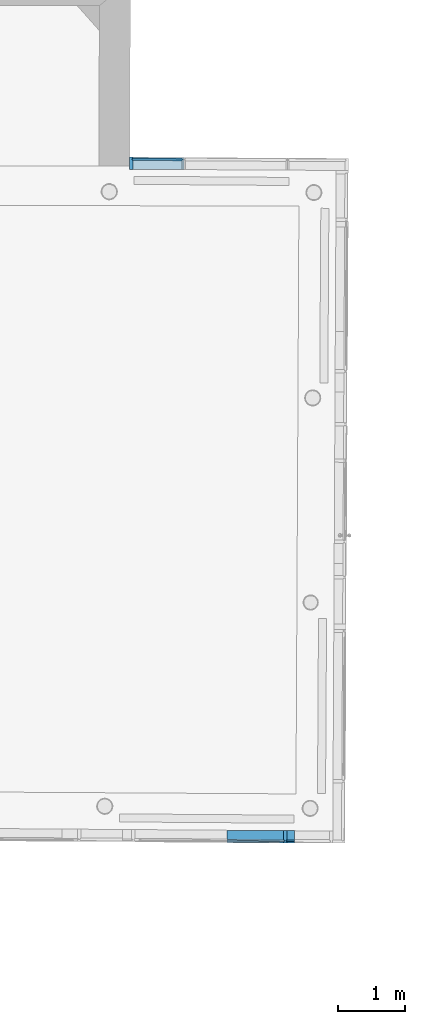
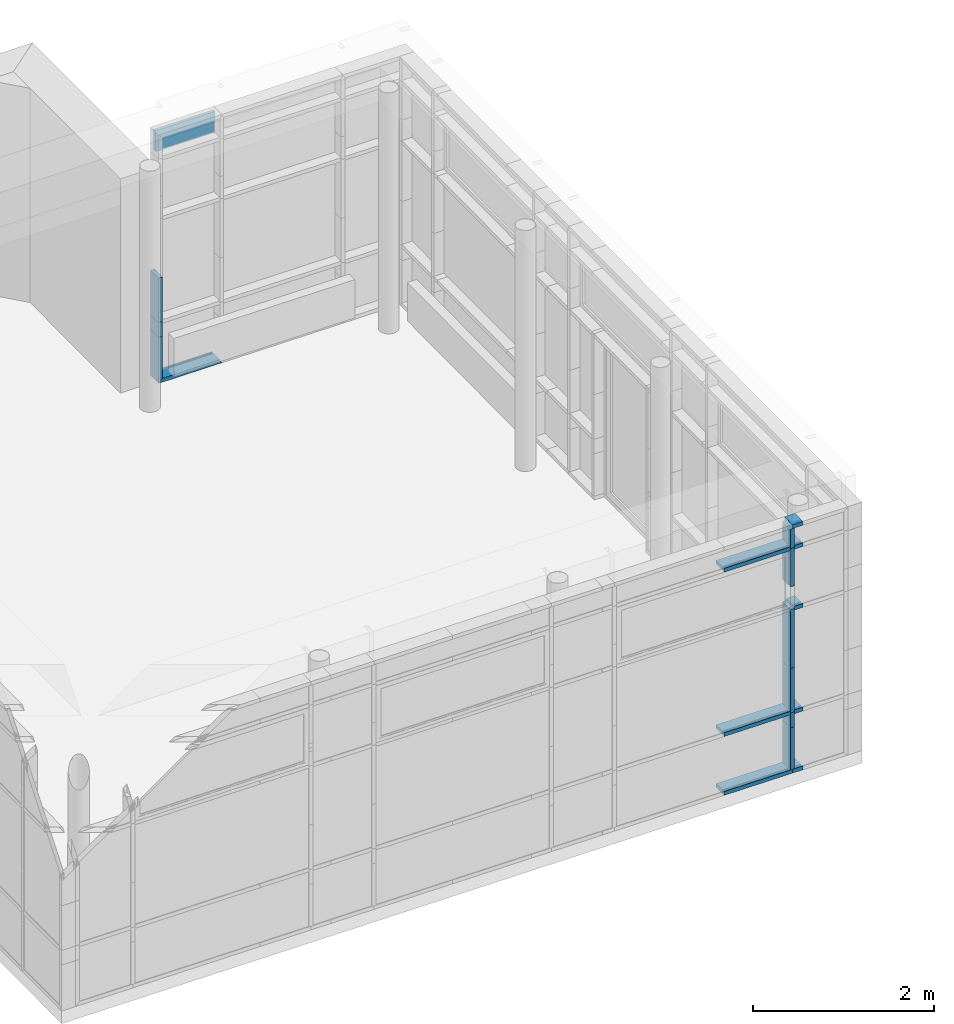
# One storey, part 175 of 196: 19 building element parts, 2 elements without a shape of their own.
"""IFC2X3 building model written with IfcOpenShell, lengths in metres."""

from ifc_helpers import new_model, entity, si_unit, converted_unit, derived_unit, money_unit, direction, frame, origin_with_axes, place, context, subcontext, project, spatial, faceted_brep, material, type_object, element, aggregate, save


model = new_model("IFC2X3")

# Units and contexts
model_context = context("Model", 3, precision=1e-05, world=origin_with_axes(), true_north=direction((0.0, 1.0)))
body_context = subcontext(model_context, "Body", "Model", "MODEL_VIEW")
ifc_project = project(units=[si_unit("LENGTHUNIT", "METRE"), si_unit("AREAUNIT", "SQUARE_METRE"), si_unit("VOLUMEUNIT", "CUBIC_METRE"), converted_unit("PLANEANGLEUNIT", "DEGREE", entity("IfcPlaneAngleMeasure", 0.0174532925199), si_unit("PLANEANGLEUNIT", "RADIAN"), dimensions=[0, 0, 0, 0, 0, 0, 0]), money_unit("EUR"), converted_unit("TIMEUNIT", "Year", entity("IfcTimeMeasure", 31556926.0), si_unit("TIMEUNIT", "SECOND"), dimensions=[0, 0, 1, 0, 0, 0, 0]), si_unit("MASSUNIT", "GRAM", prefix="KILO"), si_unit("THERMODYNAMICTEMPERATUREUNIT", "DEGREE_CELSIUS"), si_unit("LUMINOUSINTENSITYUNIT", "LUMEN"), si_unit("ENERGYUNIT", "JOULE", prefix="MEGA"), derived_unit("THERMALCONDUCTANCEUNIT", [(si_unit("POWERUNIT", "WATT"), 1), (si_unit("LENGTHUNIT", "METRE"), -1), (si_unit("THERMODYNAMICTEMPERATUREUNIT", "KELVIN"), -1)]), derived_unit("SPECIFICHEATCAPACITYUNIT", [(si_unit("ENERGYUNIT", "JOULE"), 1), (si_unit("MASSUNIT", "GRAM", prefix="KILO"), -1), (si_unit("THERMODYNAMICTEMPERATUREUNIT", "KELVIN"), -1)]), derived_unit("MASSDENSITYUNIT", [(si_unit("MASSUNIT", "GRAM", prefix="KILO"), 1), (si_unit("VOLUMEUNIT", "CUBIC_METRE"), -1)])], contexts=[model_context])

# Site, building, storey
site_placement = place(None, origin_with_axes())
site = spatial("IfcSite", under=ifc_project, at=site_placement, Name="Gelände", CompositionType="ELEMENT")
building_placement = place(site_placement, origin_with_axes())
building = spatial("IfcBuilding", under=site, at=building_placement, Name="Gebäude", CompositionType="ELEMENT")
storey_placement = place(building_placement, frame((0.0, 0.0, -3.0), z_axis=(0.0, 0.0, 1.0), x_axis=(1.0, 0.0, 0.0)))
storey = spatial("IfcBuildingStorey", under=building, at=storey_placement, Name="KELLERGESCHOSS", CompositionType="ELEMENT", Elevation=-3.0)

# Proxy, building element parts
building_element_proxy_type = type_object("IfcBuildingElementProxyType", Name="Fassadentyp", PredefinedType="NOTDEFINED")
proxy_1_placement = place(storey_placement, frame((2.54090824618, 35.7894672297, 0.610000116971), z_axis=(0.0, 0.0, 1.0), x_axis=(1.0, 0.0, 0.0)))
proxy_1 = element("IfcBuildingElementProxy", 1, at=proxy_1_placement, inside=storey, type_object=building_element_proxy_type, Name="Fassade-002")
ifc_material_1 = material(Name="53_Metall, Aluminium")
building_element_part_1_placement = place(proxy_1_placement, origin_with_axes())
building_element_part_1 = element("IfcBuildingElementPart", 2, at=building_element_part_1_placement, material=ifc_material_1, Name="53_Metall, Aluminium", context=body_context, shape_type="Brep", body=[
    faceted_brep([(5.76495683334, -0.0317734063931, 0.619999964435), (5.77995643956, -0.0318820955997, 0.619999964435), (5.78097087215, 0.10811422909, 0.619999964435), (5.73097218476, 0.108476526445, 0.619999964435), (5.72995775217, -0.0315197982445, 0.619999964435), (5.74495735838, -0.031628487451, 0.619999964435), (5.74481243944, -0.0516279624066, 0.619999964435), (5.72981283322, -0.0515192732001, 0.619999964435), (5.72966791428, -0.0715187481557, 0.619999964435), (5.77966660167, -0.0718810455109, 0.619999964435), (5.77981152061, -0.0518815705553, 0.619999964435), (5.7648119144, -0.0517728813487, 0.619999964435), (5.76495683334, -0.0317734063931, 0.0499999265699), (5.77995643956, -0.0318820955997, 0.0499999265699), (5.78097087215, 0.10811422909, 0.0499999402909), (5.73097218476, 0.108476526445, 0.0499999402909), (5.72995775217, -0.0315197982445, 0.0499999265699), (5.74495735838, -0.031628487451, 0.0499999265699), (5.74481243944, -0.0516279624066, 0.0499999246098), (5.72981283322, -0.0515192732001, 0.0499999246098), (5.72966791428, -0.0715187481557, 0.0499999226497), (5.77966660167, -0.0718810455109, 0.0499999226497), (5.77981152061, -0.0518815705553, 0.0499999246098), (5.7648119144, -0.0517728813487, 0.0499999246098)], [[[0, 1, 2, 3, 4, 5, 6, 7, 8, 9, 10, 11]], [[1, 0, 12, 13]], [[1, 13, 14, 2]], [[2, 14, 15, 3]], [[4, 3, 15, 16]], [[4, 16, 17, 5]], [[5, 17, 18, 6]], [[7, 6, 18, 19]], [[19, 20, 8, 7]], [[8, 20, 21, 9]], [[22, 10, 9, 21]], [[11, 10, 22, 23]], [[0, 11, 23, 12]], [[23, 22, 21, 20, 19, 18, 17, 16, 15, 14, 13, 12]]]),
])
building_element_part_2_placement = place(proxy_1_placement, origin_with_axes())
building_element_part_2 = element("IfcBuildingElementPart", 3, at=building_element_part_2_placement, material=ifc_material_1, Name="53_Metall, Aluminium", context=body_context, shape_type="Brep", body=[
    faceted_brep([(5.76495683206, -0.0317734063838, 2.21648768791), (5.77995643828, -0.0318820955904, 2.21648768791), (5.78097087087, 0.108114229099, 2.21648768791), (5.73097218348, 0.108476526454, 2.21648768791), (5.72995775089, -0.0315197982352, 2.21648768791), (5.7449573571, -0.0316284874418, 2.21648768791), (5.74481243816, -0.0516279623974, 2.21648768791), (5.72981283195, -0.0515192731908, 2.21648768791), (5.729667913, -0.0715187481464, 2.21648768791), (5.77966660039, -0.0718810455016, 2.21648768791), (5.77981151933, -0.051881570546, 2.21648768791), (5.76481191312, -0.0517728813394, 2.21648768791), (5.76495683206, -0.0317734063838, 1.41999988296), (5.77995643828, -0.0318820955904, 1.41999988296), (5.78097087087, 0.108114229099, 1.41999988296), (5.73097218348, 0.108476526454, 1.41999988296), (5.72995775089, -0.0315197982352, 1.41999988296), (5.7449573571, -0.0316284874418, 1.41999988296), (5.74481243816, -0.0516279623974, 1.41999988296), (5.72981283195, -0.0515192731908, 1.41999988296), (5.729667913, -0.0715187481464, 1.41999988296), (5.77966660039, -0.0718810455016, 1.41999988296), (5.77981151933, -0.051881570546, 1.41999988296), (5.76481191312, -0.0517728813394, 1.41999988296)], [[[0, 1, 2, 3, 4, 5, 6, 7, 8, 9, 10, 11]], [[1, 0, 12, 13]], [[1, 13, 14, 2]], [[3, 2, 14, 15]], [[4, 3, 15, 16]], [[4, 16, 17, 5]], [[5, 17, 18, 6]], [[7, 6, 18, 19]], [[19, 20, 8, 7]], [[9, 8, 20, 21]], [[22, 10, 9, 21]], [[11, 10, 22, 23]], [[0, 11, 23, 12]], [[23, 22, 21, 20, 19, 18, 17, 16, 15, 14, 13, 12]]]),
])
building_element_part_3_placement = place(proxy_1_placement, origin_with_axes())
building_element_part_3 = element("IfcBuildingElementPart", 4, at=building_element_part_3_placement, material=ifc_material_1, Name="53_Metall, Aluminium", context=body_context, shape_type="Brep", body=[
    faceted_brep([(5.88919849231, -0.0326736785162, 0.0349999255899), (5.88905357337, -0.0526731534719, 0.0349999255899), (5.88905357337, -0.0526731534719, 0.0499999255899), (5.88890865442, -0.0726726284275, 0.0499999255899), (5.88890865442, -0.0726726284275, -7.44101367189e-08), (5.8902129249, 0.107322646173, -7.44101367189e-08), (5.8902129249, 0.107322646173, 0.0499999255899), (5.88919849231, -0.0326736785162, 0.0499999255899), (5.75495709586, -0.0317009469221, 0.0349999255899), (5.75481217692, -0.0517004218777, 0.0349999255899), (5.75481217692, -0.0517004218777, 0.0499999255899), (5.75466725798, -0.0716998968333, 0.0499999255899), (5.75466725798, -0.0716998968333, -7.44101367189e-08), (5.75597152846, 0.108295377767, -7.44101367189e-08), (5.75597152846, 0.108295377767, 0.0499999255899), (5.75495709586, -0.0317009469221, 0.0499999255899)], [[[0, 1, 2, 3, 4, 5, 6, 7]], [[1, 0, 8, 9]], [[10, 2, 1, 9]], [[2, 10, 11, 3]], [[12, 4, 3, 11]], [[13, 5, 4, 12]], [[14, 6, 5, 13]], [[15, 7, 6, 14]], [[0, 7, 15, 8]], [[8, 15, 14, 13, 12, 11, 10, 9]]]),
])
building_element_part_4_placement = place(proxy_1_placement, origin_with_axes())
building_element_part_4 = element("IfcBuildingElementPart", 5, at=building_element_part_4_placement, material=ifc_material_1, Name="53_Metall, Aluminium", context=body_context, shape_type="Brep", body=[
    faceted_brep([(5.76495682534, -0.0317734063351, 1.41999987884), (5.77995643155, -0.0318820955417, 1.41999987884), (5.78097086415, 0.108114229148, 1.41999987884), (5.73097217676, 0.108476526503, 1.41999987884), (5.72995774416, -0.0315197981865, 1.41999987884), (5.74495735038, -0.031628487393, 1.41999987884), (5.74481243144, -0.0516279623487, 1.41999987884), (5.72981282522, -0.0515192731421, 1.41999987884), (5.72966790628, -0.0715187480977, 1.41999987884), (5.77966659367, -0.0718810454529, 1.41999987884), (5.77981151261, -0.0518815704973, 1.41999987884), (5.7648119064, -0.0517728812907, 1.41999987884), (5.76495682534, -0.0317734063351, 0.818463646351), (5.77995643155, -0.0318820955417, 0.818463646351), (5.78097086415, 0.108114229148, 0.818463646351), (5.73097217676, 0.108476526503, 0.818463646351), (5.72995774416, -0.0315197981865, 0.818463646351), (5.74495735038, -0.031628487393, 0.818463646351), (5.74481243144, -0.0516279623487, 0.818463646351), (5.72981282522, -0.0515192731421, 0.818463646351), (5.72966790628, -0.0715187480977, 0.818463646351), (5.77966659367, -0.0718810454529, 0.818463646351), (5.77981151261, -0.0518815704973, 0.818463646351), (5.7648119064, -0.0517728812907, 0.818463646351)], [[[0, 1, 2, 3, 4, 5, 6, 7, 8, 9, 10, 11]], [[1, 0, 12, 13]], [[1, 13, 14, 2]], [[3, 2, 14, 15]], [[4, 3, 15, 16]], [[4, 16, 17, 5]], [[5, 17, 18, 6]], [[7, 6, 18, 19]], [[19, 20, 8, 7]], [[9, 8, 20, 21]], [[22, 10, 9, 21]], [[11, 10, 22, 23]], [[0, 11, 23, 12]], [[23, 22, 21, 20, 19, 18, 17, 16, 15, 14, 13, 12]]]),
])
building_element_part_5_placement = place(proxy_1_placement, origin_with_axes())
building_element_part_5 = element("IfcBuildingElementPart", 6, at=building_element_part_5_placement, material=ifc_material_1, Name="53_Metall, Aluminium", context=body_context, shape_type="Brep", body=[
    faceted_brep([(5.75495709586, -0.0317009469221, 0.0349999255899), (5.75481217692, -0.0517004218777, 0.0349999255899), (5.75481217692, -0.0517004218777, 0.0499999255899), (5.75466725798, -0.0716998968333, 0.0499999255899), (5.75466725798, -0.0716998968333, -7.44101367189e-08), (5.75597152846, 0.108295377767, -7.44101367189e-08), (5.75597152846, 0.108295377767, 0.0499999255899), (5.75495709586, -0.0317009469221, 0.0499999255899), (4.88922474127, -0.0254277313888, 0.0349999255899), (4.88907982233, -0.0454272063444, 0.0349999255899), (4.88907982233, -0.0454272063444, 0.0499999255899), (4.88893490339, -0.0654266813, 0.0499999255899), (4.88893490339, -0.0654266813, -7.44101367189e-08), (4.89023917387, 0.114568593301, -7.44101367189e-08), (4.89023917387, 0.114568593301, 0.0499999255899), (4.88922474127, -0.0254277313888, 0.0499999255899)], [[[0, 1, 2, 3, 4, 5, 6, 7]], [[1, 0, 8, 9]], [[10, 2, 1, 9]], [[2, 10, 11, 3]], [[12, 4, 3, 11]], [[13, 5, 4, 12]], [[14, 6, 5, 13]], [[15, 7, 6, 14]], [[0, 7, 15, 8]], [[8, 15, 14, 13, 12, 11, 10, 9]]]),
])
building_element_part_6_placement = place(proxy_1_placement, origin_with_axes())
building_element_part_6 = element("IfcBuildingElementPart", 7, at=building_element_part_6_placement, material=ifc_material_1, Name="53_Metall, Aluminium", context=body_context, shape_type="Brep", body=[
    faceted_brep([(5.88919849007, -0.0326736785, 2.20648768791), (5.88919849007, -0.0326736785, 2.19148768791), (5.89021292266, 0.107322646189, 2.19148768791), (5.89021292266, 0.107322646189, 2.24148768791), (5.88919849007, -0.0326736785, 2.24148768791), (5.88919849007, -0.0326736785, 2.22648768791), (5.88905357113, -0.0526731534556, 2.22648768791), (5.88905357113, -0.0526731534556, 2.24148768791), (5.88890865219, -0.0726726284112, 2.24148768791), (5.88890865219, -0.0726726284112, 2.19148768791), (5.88905357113, -0.0526731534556, 2.19148768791), (5.88905357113, -0.0526731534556, 2.20648768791), (5.77995643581, -0.0318820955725, 2.20648768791), (5.77995643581, -0.0318820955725, 2.19148768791), (5.78097086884, 0.108114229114, 2.19148768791), (5.78097086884, 0.108114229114, 2.24148768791), (5.77995643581, -0.0318820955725, 2.24148768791), (5.77995643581, -0.0318820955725, 2.22648768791), (5.7798115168, -0.0518815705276, 2.22648768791), (5.7798115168, -0.0518815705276, 2.24148768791), (5.7796665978, -0.0718810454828, 2.24148768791), (5.7796665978, -0.0718810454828, 2.19148768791), (5.7798115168, -0.0518815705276, 2.19148768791), (5.7798115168, -0.0518815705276, 2.20648768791)], [[[0, 1, 2, 3, 4, 5, 6, 7, 8, 9, 10, 11]], [[1, 0, 12, 13]], [[1, 13, 14, 2]], [[2, 14, 15, 3]], [[4, 3, 15, 16]], [[4, 16, 17, 5]], [[5, 17, 18, 6]], [[7, 6, 18, 19]], [[19, 20, 8, 7]], [[8, 20, 21, 9]], [[22, 10, 9, 21]], [[11, 10, 22, 23]], [[0, 11, 23, 12]], [[23, 22, 21, 20, 19, 18, 17, 16, 15, 14, 13, 12]]]),
])
building_element_part_7_placement = place(proxy_1_placement, origin_with_axes())
building_element_part_7 = element("IfcBuildingElementPart", 8, at=building_element_part_7_placement, material=ifc_material_1, Name="53_Metall, Aluminium", context=body_context, shape_type="Brep", body=[
    faceted_brep([(5.88919848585, -0.0326736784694, 0.808463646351), (5.88919848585, -0.0326736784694, 0.793463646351), (5.89021291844, 0.10732264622, 0.793463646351), (5.89021291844, 0.10732264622, 0.843463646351), (5.88919848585, -0.0326736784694, 0.843463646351), (5.88919848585, -0.0326736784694, 0.828463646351), (5.88905356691, -0.052673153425, 0.828463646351), (5.88905356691, -0.052673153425, 0.843463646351), (5.88890864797, -0.0726726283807, 0.843463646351), (5.88890864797, -0.0726726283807, 0.793463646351), (5.88905356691, -0.052673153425, 0.793463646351), (5.88905356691, -0.052673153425, 0.808463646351), (5.77995643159, -0.0318820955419, 0.808463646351), (5.77995643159, -0.0318820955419, 0.793463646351), (5.78097086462, 0.108114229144, 0.793463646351), (5.78097086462, 0.108114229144, 0.843463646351), (5.77995643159, -0.0318820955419, 0.843463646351), (5.77995643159, -0.0318820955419, 0.828463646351), (5.77981151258, -0.0518815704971, 0.828463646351), (5.77981151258, -0.0518815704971, 0.843463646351), (5.77966659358, -0.0718810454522, 0.843463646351), (5.77966659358, -0.0718810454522, 0.793463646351), (5.77981151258, -0.0518815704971, 0.793463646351), (5.77981151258, -0.0518815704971, 0.808463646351)], [[[0, 1, 2, 3, 4, 5, 6, 7, 8, 9, 10, 11]], [[1, 0, 12, 13]], [[1, 13, 14, 2]], [[2, 14, 15, 3]], [[4, 3, 15, 16]], [[4, 16, 17, 5]], [[5, 17, 18, 6]], [[7, 6, 18, 19]], [[19, 20, 8, 7]], [[8, 20, 21, 9]], [[22, 10, 9, 21]], [[11, 10, 22, 23]], [[0, 11, 23, 12]], [[23, 22, 21, 20, 19, 18, 17, 16, 15, 14, 13, 12]]]),
])
building_element_part_8_placement = place(proxy_1_placement, origin_with_axes())
building_element_part_8 = element("IfcBuildingElementPart", 9, at=building_element_part_8_placement, material=ifc_material_1, Name="53_Metall, Aluminium", context=body_context, shape_type="Brep", body=[
    faceted_brep([(5.72995774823, -0.0315197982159, 0.808463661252), (5.72995774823, -0.0315197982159, 0.793463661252), (5.73097217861, 0.108476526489, 0.793463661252), (5.73097217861, 0.108476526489, 0.843463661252), (5.72995774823, -0.0315197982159, 0.843463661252), (5.72995774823, -0.0315197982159, 0.828463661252), (5.7298128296, -0.0515192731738, 0.828463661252), (5.7298128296, -0.0515192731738, 0.843463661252), (5.72966791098, -0.0715187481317, 0.843463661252), (5.72966791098, -0.0715187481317, 0.793463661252), (5.7298128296, -0.0515192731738, 0.793463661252), (5.7298128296, -0.0515192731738, 0.808463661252), (4.88922474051, -0.0254277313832, 0.808463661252), (4.88922474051, -0.0254277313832, 0.793463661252), (4.8902391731, 0.114568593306, 0.793463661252), (4.8902391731, 0.114568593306, 0.843463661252), (4.88922474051, -0.0254277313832, 0.843463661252), (4.88922474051, -0.0254277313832, 0.828463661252), (4.88907982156, -0.0454272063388, 0.828463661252), (4.88907982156, -0.0454272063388, 0.843463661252), (4.88893490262, -0.0654266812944, 0.843463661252), (4.88893490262, -0.0654266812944, 0.793463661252), (4.88907982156, -0.0454272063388, 0.793463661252), (4.88907982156, -0.0454272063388, 0.808463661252)], [[[0, 1, 2, 3, 4, 5, 6, 7, 8, 9, 10, 11]], [[1, 0, 12, 13]], [[1, 13, 14, 2]], [[3, 2, 14, 15]], [[4, 3, 15, 16]], [[4, 16, 17, 5]], [[5, 17, 18, 6]], [[7, 6, 18, 19]], [[19, 20, 8, 7]], [[9, 8, 20, 21]], [[22, 10, 9, 21]], [[11, 10, 22, 23]], [[0, 11, 23, 12]], [[23, 22, 21, 20, 19, 18, 17, 16, 15, 14, 13, 12]]]),
])
building_element_part_9_placement = place(proxy_1_placement, origin_with_axes())
building_element_part_9 = element("IfcBuildingElementPart", 10, at=building_element_part_9_placement, material=ifc_material_1, Name="53_Metall, Aluminium", context=body_context, shape_type="Brep", body=[
    faceted_brep([(5.76495682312, -0.031773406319, 0.818463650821), (5.77995642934, -0.0318820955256, 0.818463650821), (5.78097086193, 0.108114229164, 0.818463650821), (5.73097217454, 0.108476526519, 0.818463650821), (5.72995774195, -0.0315197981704, 0.818463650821), (5.74495734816, -0.031628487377, 0.818463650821), (5.74481242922, -0.0516279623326, 0.818463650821), (5.729812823, -0.051519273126, 0.818463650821), (5.72966790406, -0.0715187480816, 0.818463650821), (5.77966659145, -0.0718810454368, 0.818463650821), (5.77981151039, -0.0518815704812, 0.818463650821), (5.76481190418, -0.0517728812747, 0.818463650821), (5.76495682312, -0.031773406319, 0.619999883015), (5.77995642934, -0.0318820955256, 0.619999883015), (5.78097086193, 0.108114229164, 0.619999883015), (5.73097217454, 0.108476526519, 0.619999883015), (5.72995774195, -0.0315197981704, 0.619999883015), (5.74495734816, -0.031628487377, 0.619999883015), (5.74481242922, -0.0516279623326, 0.619999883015), (5.729812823, -0.051519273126, 0.619999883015), (5.72966790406, -0.0715187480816, 0.619999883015), (5.77966659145, -0.0718810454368, 0.619999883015), (5.77981151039, -0.0518815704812, 0.619999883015), (5.76481190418, -0.0517728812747, 0.619999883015)], [[[0, 1, 2, 3, 4, 5, 6, 7, 8, 9, 10, 11]], [[1, 0, 12, 13]], [[1, 13, 14, 2]], [[3, 2, 14, 15]], [[4, 3, 15, 16]], [[4, 16, 17, 5]], [[5, 17, 18, 6]], [[7, 6, 18, 19]], [[19, 20, 8, 7]], [[9, 8, 20, 21]], [[22, 10, 9, 21]], [[11, 10, 22, 23]], [[0, 11, 23, 12]], [[23, 22, 21, 20, 19, 18, 17, 16, 15, 14, 13, 12]]]),
])
building_element_part_10_placement = place(proxy_1_placement, origin_with_axes())
building_element_part_10 = element("IfcBuildingElementPart", 11, at=building_element_part_10_placement, material=ifc_material_1, Name="53_Metall, Aluminium", context=body_context, shape_type="Brep", body=[
    faceted_brep([(5.88919848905, -0.0326736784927, 3.31499994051), (5.88919848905, -0.0326736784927, 3.29999994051), (5.89021292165, 0.107322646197, 3.29999994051), (5.89021292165, 0.107322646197, 3.34999994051), (5.88890865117, -0.0726726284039, 3.34999994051), (5.88890865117, -0.0726726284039, 3.29999994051), (5.88905357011, -0.0526731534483, 3.29999994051), (5.88905357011, -0.0526731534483, 3.31499994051), (5.75495709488, -0.031700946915, 3.31499994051), (5.75495709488, -0.031700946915, 3.29999994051), (5.75597152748, 0.108295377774, 3.29999994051), (5.75597152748, 0.108295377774, 3.34999994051), (5.754667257, -0.0716998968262, 3.34999994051), (5.754667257, -0.0716998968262, 3.29999994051), (5.75481217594, -0.0517004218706, 3.29999994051), (5.75481217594, -0.0517004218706, 3.31499994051)], [[[0, 1, 2, 3, 4, 5, 6, 7]], [[0, 8, 9, 1]], [[9, 10, 2, 1]], [[10, 11, 3, 2]], [[11, 12, 4, 3]], [[12, 13, 5, 4]], [[6, 5, 13, 14]], [[14, 15, 7, 6]], [[7, 15, 8, 0]], [[8, 15, 14, 13, 12, 11, 10, 9]]]),
])
building_element_part_11_placement = place(proxy_1_placement, origin_with_axes())
building_element_part_11 = element("IfcBuildingElementPart", 12, at=building_element_part_11_placement, material=ifc_material_1, Name="53_Metall, Aluminium", context=body_context, shape_type="Brep", body=[
    faceted_brep([(5.72995774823, -0.0315197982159, 3.02649576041), (5.72995774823, -0.0315197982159, 3.01149576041), (5.73097217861, 0.108476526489, 3.01149576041), (5.73097217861, 0.108476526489, 3.06149576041), (5.72995774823, -0.0315197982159, 3.06149576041), (5.72995774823, -0.0315197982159, 3.04649576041), (5.7298128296, -0.0515192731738, 3.04649576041), (5.7298128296, -0.0515192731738, 3.06149576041), (5.72966791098, -0.0715187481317, 3.06149576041), (5.72966791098, -0.0715187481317, 3.01149576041), (5.7298128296, -0.0515192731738, 3.01149576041), (5.7298128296, -0.0515192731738, 3.02649576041), (4.88922474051, -0.0254277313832, 3.02649576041), (4.88922474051, -0.0254277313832, 3.01149576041), (4.8902391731, 0.114568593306, 3.01149576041), (4.8902391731, 0.114568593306, 3.06149576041), (4.88922474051, -0.0254277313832, 3.06149576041), (4.88922474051, -0.0254277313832, 3.04649576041), (4.88907982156, -0.0454272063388, 3.04649576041), (4.88907982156, -0.0454272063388, 3.06149576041), (4.88893490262, -0.0654266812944, 3.06149576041), (4.88893490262, -0.0654266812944, 3.01149576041), (4.88907982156, -0.0454272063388, 3.01149576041), (4.88907982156, -0.0454272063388, 3.02649576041)], [[[0, 1, 2, 3, 4, 5, 6, 7, 8, 9, 10, 11]], [[1, 0, 12, 13]], [[1, 13, 14, 2]], [[3, 2, 14, 15]], [[4, 3, 15, 16]], [[4, 16, 17, 5]], [[5, 17, 18, 6]], [[7, 6, 18, 19]], [[19, 20, 8, 7]], [[9, 8, 20, 21]], [[22, 10, 9, 21]], [[11, 10, 22, 23]], [[0, 11, 23, 12]], [[23, 22, 21, 20, 19, 18, 17, 16, 15, 14, 13, 12]]]),
])
building_element_part_12_placement = place(proxy_1_placement, origin_with_axes())
building_element_part_12 = element("IfcBuildingElementPart", 13, at=building_element_part_12_placement, material=ifc_material_1, Name="53_Metall, Aluminium", context=body_context, shape_type="Brep", body=[
    faceted_brep([(5.88919849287, -0.0326736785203, 3.02649576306), (5.88919849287, -0.0326736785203, 3.01149576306), (5.89021292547, 0.107322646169, 3.01149576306), (5.89021292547, 0.107322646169, 3.06149576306), (5.88919849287, -0.0326736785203, 3.06149576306), (5.88919849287, -0.0326736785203, 3.04649576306), (5.88905357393, -0.0526731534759, 3.04649576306), (5.88905357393, -0.0526731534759, 3.06149576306), (5.88890865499, -0.0726726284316, 3.06149576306), (5.88890865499, -0.0726726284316, 3.01149576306), (5.88905357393, -0.0526731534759, 3.01149576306), (5.88905357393, -0.0526731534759, 3.02649576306), (5.77995643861, -0.0318820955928, 3.02649576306), (5.77995643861, -0.0318820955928, 3.01149576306), (5.78097087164, 0.108114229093, 3.01149576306), (5.78097087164, 0.108114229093, 3.06149576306), (5.77995643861, -0.0318820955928, 3.06149576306), (5.77995643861, -0.0318820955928, 3.04649576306), (5.7798115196, -0.051881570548, 3.04649576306), (5.7798115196, -0.051881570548, 3.06149576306), (5.7796666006, -0.0718810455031, 3.06149576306), (5.7796666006, -0.0718810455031, 3.01149576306), (5.7798115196, -0.051881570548, 3.01149576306), (5.7798115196, -0.051881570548, 3.02649576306)], [[[0, 1, 2, 3, 4, 5, 6, 7, 8, 9, 10, 11]], [[1, 0, 12, 13]], [[1, 13, 14, 2]], [[2, 14, 15, 3]], [[4, 3, 15, 16]], [[4, 16, 17, 5]], [[5, 17, 18, 6]], [[7, 6, 18, 19]], [[19, 20, 8, 7]], [[8, 20, 21, 9]], [[22, 10, 9, 21]], [[11, 10, 22, 23]], [[0, 11, 23, 12]], [[23, 22, 21, 20, 19, 18, 17, 16, 15, 14, 13, 12]]]),
])
building_element_part_13_placement = place(proxy_1_placement, origin_with_axes())
building_element_part_13 = element("IfcBuildingElementPart", 14, at=building_element_part_13_placement, material=ifc_material_1, Name="53_Metall, Aluminium", context=body_context, shape_type="Brep", body=[
    faceted_brep([(5.76495683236, -0.031773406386, 3.2999999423), (5.77995643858, -0.0318820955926, 3.2999999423), (5.78097087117, 0.108114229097, 3.2999999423), (5.73097218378, 0.108476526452, 3.2999999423), (5.72995775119, -0.0315197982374, 3.2999999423), (5.74495735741, -0.0316284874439, 3.2999999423), (5.74481243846, -0.0516279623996, 3.2999999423), (5.72981283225, -0.051519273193, 3.2999999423), (5.7296679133, -0.0715187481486, 3.2999999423), (5.77966660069, -0.0718810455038, 3.2999999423), (5.77981151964, -0.0518815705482, 3.2999999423), (5.76481191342, -0.0517728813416, 3.2999999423), (5.76495683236, -0.031773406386, 3.03649576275), (5.77995643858, -0.0318820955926, 3.03649576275), (5.78097087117, 0.108114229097, 3.03649576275), (5.73097218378, 0.108476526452, 3.03649576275), (5.72995775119, -0.0315197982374, 3.03649576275), (5.74495735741, -0.0316284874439, 3.03649576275), (5.74481243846, -0.0516279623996, 3.03649576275), (5.72981283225, -0.051519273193, 3.03649576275), (5.7296679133, -0.0715187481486, 3.03649576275), (5.77966660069, -0.0718810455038, 3.03649576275), (5.77981151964, -0.0518815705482, 3.03649576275), (5.76481191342, -0.0517728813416, 3.03649576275)], [[[0, 1, 2, 3, 4, 5, 6, 7, 8, 9, 10, 11]], [[1, 0, 12, 13]], [[1, 13, 14, 2]], [[3, 2, 14, 15]], [[4, 3, 15, 16]], [[4, 16, 17, 5]], [[5, 17, 18, 6]], [[7, 6, 18, 19]], [[19, 20, 8, 7]], [[9, 8, 20, 21]], [[22, 10, 9, 21]], [[11, 10, 22, 23]], [[0, 11, 23, 12]], [[23, 22, 21, 20, 19, 18, 17, 16, 15, 14, 13, 12]]]),
])
building_element_part_14_placement = place(proxy_1_placement, origin_with_axes())
building_element_part_14 = element("IfcBuildingElementPart", 15, at=building_element_part_14_placement, material=ifc_material_1, Name="53_Metall, Aluminium", context=body_context, shape_type="Brep", body=[
    faceted_brep([(5.7649568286, -0.0317734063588, 3.03649576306), (5.77995643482, -0.0318820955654, 3.03649576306), (5.78097086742, 0.108114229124, 3.03649576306), (5.73097218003, 0.108476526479, 3.03649576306), (5.72995774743, -0.0315197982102, 3.03649576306), (5.74495735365, -0.0316284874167, 3.03649576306), (5.74481243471, -0.0516279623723, 3.03649576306), (5.72981282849, -0.0515192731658, 3.03649576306), (5.72966790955, -0.0715187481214, 3.03649576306), (5.77966659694, -0.0718810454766, 3.03649576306), (5.77981151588, -0.051881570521, 3.03649576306), (5.76481190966, -0.0517728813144, 3.03649576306), (5.7649568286, -0.0317734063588, 2.51999988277), (5.77995643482, -0.0318820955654, 2.51999988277), (5.78097086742, 0.108114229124, 2.51999988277), (5.73097218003, 0.108476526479, 2.51999988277), (5.72995774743, -0.0315197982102, 2.51999988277), (5.74495735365, -0.0316284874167, 2.51999988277), (5.74481243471, -0.0516279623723, 2.51999988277), (5.72981282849, -0.0515192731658, 2.51999988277), (5.72966790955, -0.0715187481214, 2.51999988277), (5.77966659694, -0.0718810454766, 2.51999988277), (5.77981151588, -0.051881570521, 2.51999988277), (5.76481190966, -0.0517728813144, 2.51999988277)], [[[0, 1, 2, 3, 4, 5, 6, 7, 8, 9, 10, 11]], [[1, 0, 12, 13]], [[1, 13, 14, 2]], [[3, 2, 14, 15]], [[4, 3, 15, 16]], [[4, 16, 17, 5]], [[5, 17, 18, 6]], [[7, 6, 18, 19]], [[19, 20, 8, 7]], [[9, 8, 20, 21]], [[22, 10, 9, 21]], [[11, 10, 22, 23]], [[0, 11, 23, 12]], [[23, 22, 21, 20, 19, 18, 17, 16, 15, 14, 13, 12]]]),
])
aggregate(proxy_1, [building_element_part_1, building_element_part_2, building_element_part_3, building_element_part_4, building_element_part_5, building_element_part_6, building_element_part_7, building_element_part_8, building_element_part_9, building_element_part_10, building_element_part_11, building_element_part_12, building_element_part_13, building_element_part_14])

proxy_2_placement = place(storey_placement, frame((8.78139895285, 45.8579301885, 0.610000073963), z_axis=(0.0, 0.0, 1.0), x_axis=(1.0, 0.0, 0.0)))
proxy_2 = element("IfcBuildingElementProxy", 16, at=proxy_2_placement, inside=storey, type_object=building_element_proxy_type, Name="Fassade-002")
ifc_material_2 = material(Name="45_Glas, Normalglas")
building_element_part_15_placement = place(proxy_2_placement, origin_with_axes())
building_element_part_15 = element("IfcBuildingElementPart", 17, at=building_element_part_15_placement, material=ifc_material_2, Name="45_Glas, Normalglas", context=body_context, shape_type="Brep", body=[
    faceted_brep([(-2.76127414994, -0.0044475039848, 3.3150000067), (-2.0022082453, -0.00872292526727, 3.3150000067), (-2.00198294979, 0.0312764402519, 3.3150000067), (-2.76104885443, 0.0355518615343, 3.3150000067), (-2.76127414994, -0.0044475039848, 3.03359915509), (-2.0022082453, -0.00872292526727, 3.03359915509), (-2.00198294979, 0.0312764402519, 3.03359915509), (-2.76104885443, 0.0355518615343, 3.03359915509)], [[[0, 1, 2, 3]], [[0, 4, 5, 1]], [[1, 5, 6, 2]], [[3, 2, 6, 7]], [[4, 0, 3, 7]], [[5, 4, 7, 6]]]),
])
building_element_part_16_placement = place(proxy_2_placement, origin_with_axes())
building_element_part_16 = element("IfcBuildingElementPart", 18, at=building_element_part_16_placement, material=ifc_material_1, Name="53_Metall, Aluminium", context=body_context, shape_type="Brep", body=[
    faceted_brep([(-2.76121782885, 0.00555233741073, 0.619999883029), (-2.7611051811, 0.0255520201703, 0.619999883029), (-2.74610541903, 0.0254675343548, 0.619999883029), (-2.74599277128, 0.0454672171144, 0.619999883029), (-2.79599197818, 0.0457488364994, 0.619999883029), (-2.79700580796, -0.134248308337, 0.619999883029), (-2.74700660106, -0.134529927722, 0.619999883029), (-2.74621806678, 0.00546785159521, 0.619999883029), (-2.76121782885, 0.00555233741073, 0.0349999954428), (-2.7611051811, 0.0255520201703, 0.0349999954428), (-2.74610541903, 0.0254675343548, 0.0499999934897), (-2.74599277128, 0.0454672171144, 0.0499999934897), (-2.79599197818, 0.0457488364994, 0.0), (-2.79700580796, -0.134248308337, 0.0), (-2.74700660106, -0.134529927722, 0.0499999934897), (-2.74621806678, 0.00546785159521, 0.0499999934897)], [[[0, 1, 2, 3, 4, 5, 6, 7]], [[1, 0, 8, 9]], [[10, 2, 1, 9]], [[2, 10, 11, 3]], [[4, 3, 11, 12]], [[5, 4, 12, 13]], [[6, 5, 13, 14]], [[15, 7, 6, 14]], [[0, 7, 15, 8]], [[8, 15, 14, 13, 12, 11, 10, 9]]]),
])
building_element_part_17_placement = place(proxy_2_placement, origin_with_axes())
building_element_part_17 = element("IfcBuildingElementPart", 19, at=building_element_part_17_placement, material=ifc_material_1, Name="53_Metall, Aluminium", context=body_context, shape_type="Brep", body=[
    faceted_brep([(-2.76121782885, 0.00555233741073, 0.035), (-2.7611051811, 0.0255520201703, 0.035), (-2.74610541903, 0.0254675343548, 0.05), (-2.74599277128, 0.0454672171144, 0.05), (-2.79599197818, 0.0457488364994, 0.0), (-2.79700580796, -0.134248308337, 0.0), (-2.74700660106, -0.134529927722, 0.05), (-2.74621806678, 0.00546785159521, 0.05), (-2.00965179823, 0.00131915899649, 0.035), (-2.00953915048, 0.0213188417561, 0.035), (-2.01703903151, 0.0213610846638, 0.05), (-2.01692638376, 0.0413607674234, 0.05), (-1.99192678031, 0.0412199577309, 0.0), (-1.9929406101, -0.138777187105, 0.0), (-2.01794021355, -0.138636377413, 0.05), (-2.01715167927, 0.00136140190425, 0.05)], [[[0, 1, 2, 3, 4, 5, 6, 7]], [[1, 0, 8, 9]], [[10, 2, 1, 9]], [[2, 10, 11, 3]], [[4, 3, 11, 12]], [[5, 4, 12, 13]], [[6, 5, 13, 14]], [[15, 7, 6, 14]], [[0, 7, 15, 8]], [[8, 15, 14, 13, 12, 11, 10, 9]]]),
])
building_element_part_18_placement = place(proxy_2_placement, origin_with_axes())
building_element_part_18 = element("IfcBuildingElementPart", 20, at=building_element_part_18_placement, material=ifc_material_1, Name="53_Metall, Aluminium", context=body_context, shape_type="Brep", body=[
    faceted_brep([(-2.76121782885, 0.00555233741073, 0.818683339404), (-2.7611051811, 0.0255520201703, 0.818683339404), (-2.74610541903, 0.0254675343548, 0.818683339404), (-2.74599277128, 0.0454672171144, 0.818683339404), (-2.79599197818, 0.0457488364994, 0.818683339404), (-2.79700580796, -0.134248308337, 0.818683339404), (-2.74700660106, -0.134529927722, 0.818683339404), (-2.74621806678, 0.00546785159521, 0.818683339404), (-2.76121782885, 0.00555233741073, 0.619999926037), (-2.7611051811, 0.0255520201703, 0.619999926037), (-2.74610541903, 0.0254675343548, 0.619999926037), (-2.74599277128, 0.0454672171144, 0.619999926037), (-2.79599197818, 0.0457488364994, 0.619999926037), (-2.79700580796, -0.134248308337, 0.619999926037), (-2.74700660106, -0.134529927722, 0.619999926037), (-2.74621806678, 0.00546785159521, 0.619999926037)], [[[0, 1, 2, 3, 4, 5, 6, 7]], [[1, 0, 8, 9]], [[10, 2, 1, 9]], [[2, 10, 11, 3]], [[12, 4, 3, 11]], [[13, 5, 4, 12]], [[14, 6, 5, 13]], [[15, 7, 6, 14]], [[0, 7, 15, 8]], [[8, 15, 14, 13, 12, 11, 10, 9]]]),
])
building_element_part_19_placement = place(proxy_2_placement, origin_with_axes())
building_element_part_19 = element("IfcBuildingElementPart", 21, at=building_element_part_19_placement, material=ifc_material_1, Name="53_Metall, Aluminium", context=body_context, shape_type="Brep", body=[
    faceted_brep([(-2.76121782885, 0.00555233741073, 1.41999992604), (-2.7611051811, 0.0255520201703, 1.41999992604), (-2.74610541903, 0.0254675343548, 1.41999992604), (-2.74599277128, 0.0454672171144, 1.41999992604), (-2.79599197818, 0.0457488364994, 1.41999992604), (-2.79700580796, -0.134248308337, 1.41999992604), (-2.74700660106, -0.134529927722, 1.41999992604), (-2.74621806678, 0.00546785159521, 1.41999992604), (-2.76121782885, 0.00555233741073, 0.818683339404), (-2.7611051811, 0.0255520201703, 0.818683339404), (-2.74610541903, 0.0254675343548, 0.818683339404), (-2.74599277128, 0.0454672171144, 0.818683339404), (-2.79599197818, 0.0457488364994, 0.818683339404), (-2.79700580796, -0.134248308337, 0.818683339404), (-2.74700660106, -0.134529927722, 0.818683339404), (-2.74621806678, 0.00546785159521, 0.818683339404)], [[[0, 1, 2, 3, 4, 5, 6, 7]], [[1, 0, 8, 9]], [[10, 2, 1, 9]], [[2, 10, 11, 3]], [[12, 4, 3, 11]], [[13, 5, 4, 12]], [[14, 6, 5, 13]], [[15, 7, 6, 14]], [[0, 7, 15, 8]], [[8, 15, 14, 13, 12, 11, 10, 9]]]),
])
aggregate(proxy_2, [building_element_part_15, building_element_part_16, building_element_part_17, building_element_part_18, building_element_part_19])

save(model, "model.ifc")
